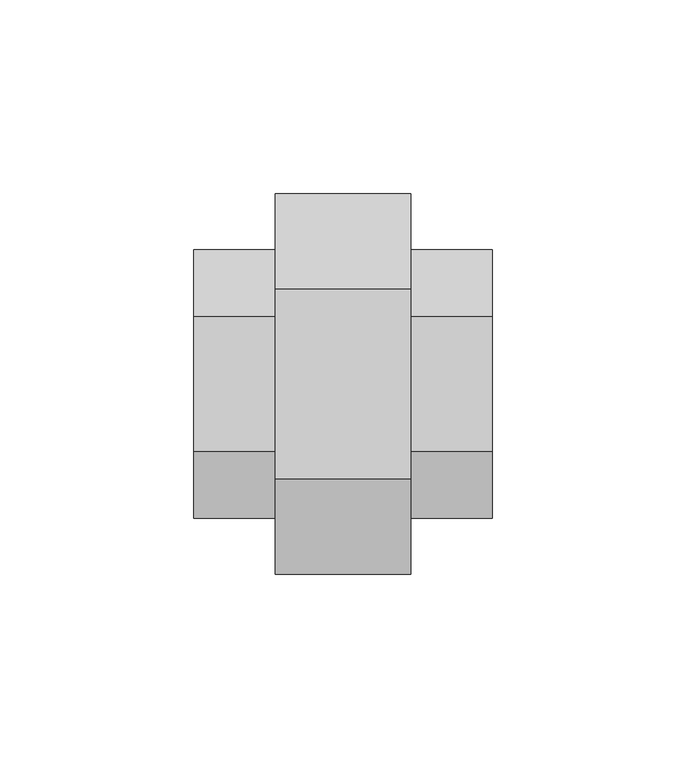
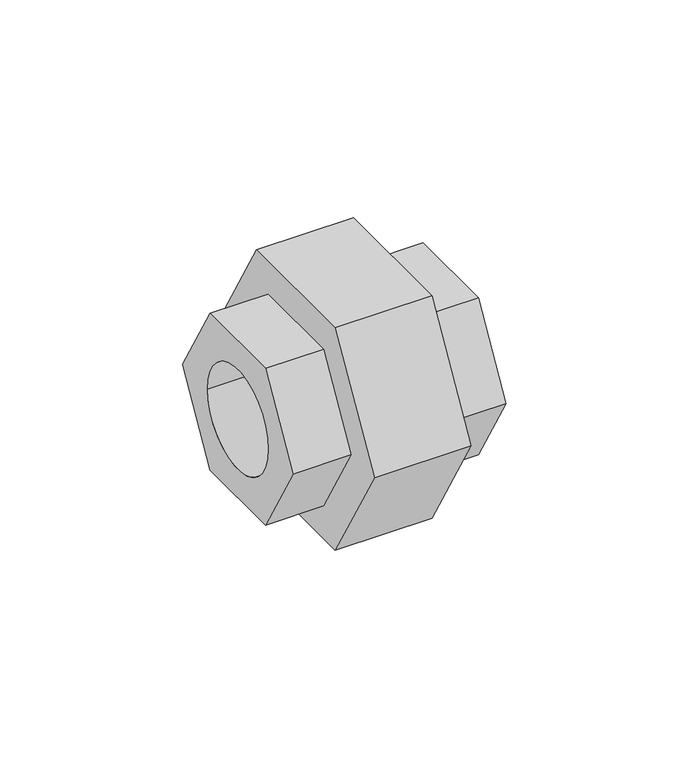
"""IFC4 building model written with IfcOpenShell, lengths in millimetres: pipe fitting geometry, 01011014 : Enlace 3 piezas."""

from ifc_helpers import new_model, si_unit, frame, origin, place, context, project, spatial, polyline, circle_curve, source, transform, mapped, element, save
from ifc_brep_helpers import plane_surface, revolved_surface, advanced_brep


def pipe_fitting_4f2c99ef(model_context):
    return source(origin(), model_context, "Body", "AdvancedBrep", [
        advanced_brep(
        [(22.0, -24.5373864, 42.5), (22.0, -49.0747729, 0.0), (22.0, -24.5373864, -42.5), (22.0, 24.5373864, -42.5), (22.0, 49.0747729, 0.0), (22.0, 24.5373864, 42.5), (22.0, -17.3205081, 30.0), (22.0, 17.3205081, 30.0), (22.0, 34.6410162, 0.0), (22.0, 17.3205081, -30.0), (22.0, -17.3205081, -30.0), (22.0, -34.6410162, 0.0), (-13.0, -24.5373864, 42.5), (-13.0, 24.5373864, 42.5), (-13.0, 49.0747729, 0.0), (-13.0, 24.5373864, -42.5), (-13.0, -24.5373864, -42.5), (-13.0, -49.0747729, 0.0), (-13.0, 17.3205081, 30.0), (-13.0, -17.3205081, 30.0), (-13.0, -34.6410162, 0.0), (-13.0, -17.3205081, -30.0), (-13.0, 17.3205081, -30.0), (-13.0, 34.6410162, 0.0), (-34.0, -17.3205081, 30.0), (-34.0, 17.3205081, 30.0), (-34.0, 34.6410162, 0.0), (-34.0, 17.3205081, -30.0), (-34.0, -17.3205081, -30.0), (-34.0, -34.6410162, 0.0), (-34.0, -19.05, 0.0), (-34.0, 19.05, 0.0), (43.0, -17.3205081, 30.0), (43.0, -34.6410162, 0.0), (43.0, -17.3205081, -30.0), (43.0, 17.3205081, -30.0), (43.0, 34.6410162, 0.0), (43.0, 17.3205081, 30.0), (43.0, 19.05, 0.0), (43.0, -19.05, 0.0)],
        [
            (0, 1),
            (1, 2),
            (2, 3),
            (3, 4),
            (4, 5),
            (5, 0),
            (6, 7),
            (7, 8),
            (8, 9),
            (9, 10),
            (10, 11),
            (11, 6),
            (12, 13),
            (13, 14),
            (14, 15),
            (15, 16),
            (16, 17),
            (17, 12),
            (18, 19),
            (19, 20),
            (20, 21),
            (21, 22),
            (22, 23),
            (23, 18),
            (0, 12),
            (17, 1),
            (16, 2),
            (15, 3),
            (14, 4),
            (13, 5),
            (24, 25),
            (25, 26),
            (26, 27),
            (27, 28),
            (28, 29),
            (29, 24),
            (30, 31, circle_curve(frame((-34.0, 0.0, 0.0), z_axis=(1.0, 0.0, 0.0), x_axis=(0.0, 1.0, 0.0)), 19.05)),
            (31, 30, circle_curve(frame((-34.0, 0.0, 0.0), z_axis=(1.0, 0.0, 0.0), x_axis=(0.0, 1.0, 0.0)), 19.05)),
            (32, 33),
            (33, 34),
            (34, 35),
            (35, 36),
            (36, 37),
            (37, 32),
            (38, 39, circle_curve(frame((43.0, 0.0, 0.0), z_axis=(-1.0, 0.0, 0.0), x_axis=(0.0, 1.0, 0.0)), 19.05)),
            (39, 38, circle_curve(frame((43.0, 0.0, 0.0), z_axis=(-1.0, 0.0, 0.0), x_axis=(0.0, 1.0, 0.0)), 19.05)),
            (24, 19),
            (18, 25),
            (37, 7),
            (6, 32),
            (23, 26),
            (36, 8),
            (22, 27),
            (35, 9),
            (21, 28),
            (34, 10),
            (20, 29),
            (33, 11),
            (38, 31),
            (30, 39),
        ],
        [
            plane_surface(frame((22.0, -24.5373864, 42.5), z_axis=(1.0000000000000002, 0.0, 0.0), x_axis=(0.0, -0.5000000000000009, -0.8660254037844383))),
            plane_surface(frame((-13.0, -24.5373864, 42.5), z_axis=(-1.0000000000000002, 0.0, 0.0), x_axis=(0.0, 0.5000000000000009, 0.8660254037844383))),
            plane_surface(frame((22.0, -24.5373864, 42.5), z_axis=(0.0, -0.8660254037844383, 0.5000000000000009), x_axis=(-1.0, 0.0, 0.0))),
            plane_surface(frame((22.0, -49.0747729, 0.0), z_axis=(0.0, -0.866025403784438, -0.500000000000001), x_axis=(-1.0, 0.0, 0.0))),
            plane_surface(frame((22.0, -24.5373864, -42.5), z_axis=(0.0, 0.0, -1.0), x_axis=(-1.0, 0.0, 0.0))),
            plane_surface(frame((22.0, 24.5373864, -42.5), z_axis=(0.0, 0.8660254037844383, -0.5000000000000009), x_axis=(-1.0, 0.0, 0.0))),
            plane_surface(frame((22.0, 49.0747729, 0.0), z_axis=(0.0, 0.8660254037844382, 0.500000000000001), x_axis=(-1.0, 0.0, 0.0))),
            plane_surface(frame((22.0, 24.5373864, 42.5), z_axis=(0.0, 0.0, 1.0), x_axis=(-1.0, 0.0, 0.0))),
            plane_surface(frame((-34.0, 0.0, 0.0), z_axis=(-1.0, 0.0, 0.0), x_axis=(0.0, 0.0, 1.0))),
            plane_surface(frame((43.0, 0.0, 0.0), z_axis=(1.0, 0.0, 0.0), x_axis=(0.0, 0.0, 1.0))),
            plane_surface(frame((-34.0, -17.3205081, 30.0), z_axis=(0.0, 0.0, 1.0), x_axis=(1.0, 0.0, 0.0))),
            plane_surface(frame((-34.0, 17.3205081, 30.0), z_axis=(0.0, 0.866025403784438, 0.500000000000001), x_axis=(1.0, 0.0, 0.0))),
            plane_surface(frame((-34.0, 34.6410162, 0.0), z_axis=(0.0, 0.8660254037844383, -0.5000000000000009), x_axis=(1.0, 0.0, 0.0))),
            plane_surface(frame((-34.0, 17.3205081, -30.0), z_axis=(0.0, 0.0, -1.0), x_axis=(1.0, 0.0, 0.0))),
            plane_surface(frame((-34.0, -17.3205081, -30.0), z_axis=(0.0, -0.866025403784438, -0.5000000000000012), x_axis=(1.0, 0.0, 0.0))),
            plane_surface(frame((-34.0, -34.6410162, 0.0), z_axis=(0.0, -0.8660254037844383, 0.5000000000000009), x_axis=(1.0, 0.0, 0.0))),
            revolved_surface(polyline([(43.0, 19.05, 0.0), (-34.0, 19.05, 0.0)]), (-34.0, 0.0, 0.0), (1.0, 0.0, 0.0)),
        ],
        [
            (0, [[1, 2, 3, 4, 5, 6], [7, 8, 9, 10, 11, 12]]),
            (1, [[13, 14, 15, 16, 17, 18], [19, 20, 21, 22, 23, 24]]),
            (2, [[-1, 25, -18, 26]]),
            (3, [[-2, -26, -17, 27]]),
            (4, [[-3, -27, -16, 28]]),
            (5, [[-4, -28, -15, 29]]),
            (6, [[-5, -29, -14, 30]]),
            (7, [[-6, -30, -13, -25]]),
            (8, [[31, 32, 33, 34, 35, 36], [37, 38]]),
            (9, [[39, 40, 41, 42, 43, 44], [45, 46]]),
            (10, [[-31, 47, -19, 48]]),
            (10, [[-44, 49, -7, 50]]),
            (11, [[-32, -48, -24, 51]]),
            (11, [[-43, 52, -8, -49]]),
            (12, [[-33, -51, -23, 53]]),
            (12, [[-42, 54, -9, -52]]),
            (13, [[-34, -53, -22, 55]]),
            (13, [[-41, 56, -10, -54]]),
            (14, [[-35, -55, -21, 57]]),
            (14, [[-40, 58, -11, -56]]),
            (15, [[-36, -57, -20, -47]]),
            (15, [[-39, -50, -12, -58]]),
            (16, [[59, -37, 60, -45]]),
            (16, [[-59, -46, -60, -38]]),
        ],
    ),
    ])


if __name__ == "__main__":
    model = new_model("IFC4")
    model_context = context("Model", 3, world=origin())
    ifc_project = project(units=[si_unit("LENGTHUNIT", "METRE", prefix="MILLI")], contexts=[model_context])
    site = spatial("IfcSite", under=ifc_project)
    building = spatial("IfcBuilding", under=site)
    placement = place(None, origin())
    pipe_fitting_shape = pipe_fitting_4f2c99ef(model_context)
    element("IfcPipeFitting", 1, ObjectType="01011014 : Enlace 3 piezas", at=placement, inside=building, context=model_context, shape_type="MappedRepresentation", body=[
        mapped(pipe_fitting_shape, transform((0.0, 0.0, 0.0), x_axis=(1.0, 0.0, 0.0), y_axis=(0.0, 1.0, 0.0), z_axis=(0.0, 0.0, 1.0))),
    ])
    save(model, "model.ifc")
